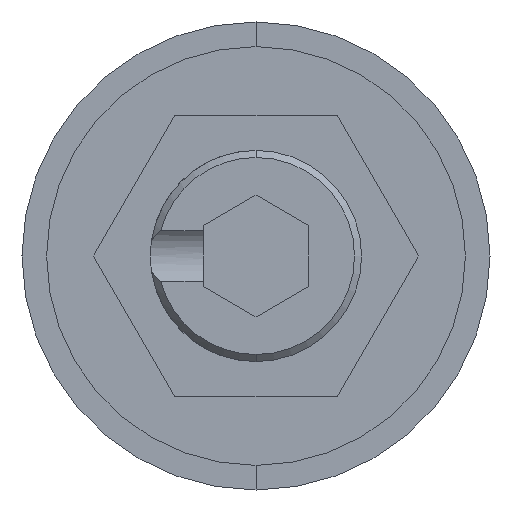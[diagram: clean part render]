
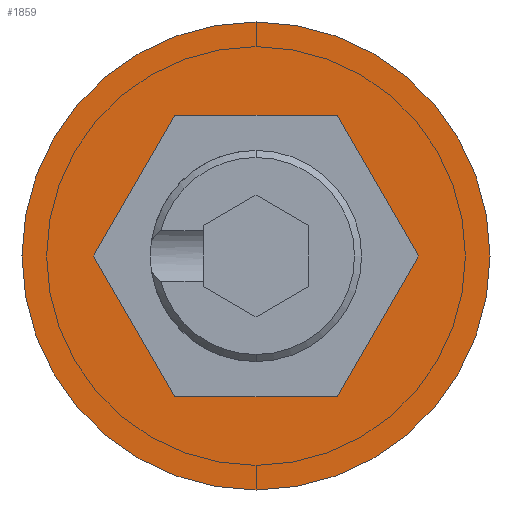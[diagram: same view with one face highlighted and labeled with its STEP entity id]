
A CAD part, front view. The second image highlights one B-rep face of the part: STEP entity #1859.
In plain terms, the highlighted planar face has unit normal (0, -1, 0).
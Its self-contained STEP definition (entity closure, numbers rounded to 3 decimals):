
#4 = EDGE_CURVE ( 'NONE', #1845, #800, #1856, .T. ) ;
#27 = CARTESIAN_POINT ( 'NONE',  ( 0., 0., 6.65 ) ) ;
#78 = DIRECTION ( 'NONE',  ( 0.5, 0., 0.866 ) ) ;
#120 = CARTESIAN_POINT ( 'NONE',  ( 2.309, 0., 4. ) ) ;
#132 = CARTESIAN_POINT ( 'NONE',  ( 4.619, 0., 0. ) ) ;
#152 = LINE ( 'NONE', #1198, #608 ) ;
#163 = CARTESIAN_POINT ( 'NONE',  ( -2.309, 0., 4. ) ) ;
#169 = CARTESIAN_POINT ( 'NONE',  ( -2.309, 0., -4. ) ) ;
#188 = CARTESIAN_POINT ( 'NONE',  ( 2.309, 0., -4. ) ) ;
#229 = CARTESIAN_POINT ( 'NONE',  ( -4.619, 0., 0. ) ) ;
#241 = AXIS2_PLACEMENT_3D ( 'NONE', #1897, #1836, #1913 ) ;
#242 = ORIENTED_EDGE ( 'NONE', *, *, #4, .T. ) ;
#255 = EDGE_CURVE ( 'NONE', #2013, #1318, #736, .T. ) ;
#280 = CIRCLE ( 'NONE', #942, 6.65 ) ;
#295 = VECTOR ( 'NONE', #78, 1000. ) ;
#298 = LINE ( 'NONE', #188, #295 ) ;
#308 = VECTOR ( 'NONE', #2045, 1000. ) ;
#447 = VECTOR ( 'NONE', #1876, 1000. ) ;
#454 = ORIENTED_EDGE ( 'NONE', *, *, #1773, .T. ) ;
#457 = VERTEX_POINT ( 'NONE', #169 ) ;
#462 = VERTEX_POINT ( 'NONE', #132 ) ;
#490 = VECTOR ( 'NONE', #814, 1000. ) ;
#596 = VERTEX_POINT ( 'NONE', #120 ) ;
#608 = VECTOR ( 'NONE', #1121, 1000. ) ;
#624 = EDGE_LOOP ( 'NONE', ( #242, #454 ) ) ;
#655 = EDGE_LOOP ( 'NONE', ( #1736, #1087, #1704, #963, #746, #816 ) ) ;
#666 = CARTESIAN_POINT ( 'NONE',  ( 4.619, 0., 0. ) ) ;
#736 = LINE ( 'NONE', #1337, #447 ) ;
#746 = ORIENTED_EDGE ( 'NONE', *, *, #2113, .F. ) ;
#778 = EDGE_CURVE ( 'NONE', #1489, #462, #298, .T. ) ;
#800 = VERTEX_POINT ( 'NONE', #27 ) ;
#814 = DIRECTION ( 'NONE',  ( -0.5, 0., 0.866 ) ) ;
#816 = ORIENTED_EDGE ( 'NONE', *, *, #778, .F. ) ;
#876 = CARTESIAN_POINT ( 'NONE',  ( 2.309, 0., -4. ) ) ;
#929 = LINE ( 'NONE', #666, #490 ) ;
#942 = AXIS2_PLACEMENT_3D ( 'NONE', #1694, #1699, #1713 ) ;
#950 = FACE_OUTER_BOUND ( 'NONE', #624, .T. ) ;
#963 = ORIENTED_EDGE ( 'NONE', *, *, #1256, .F. ) ;
#995 = DIRECTION ( 'NONE',  ( 0.5, 0., -0.866 ) ) ;
#1019 = CARTESIAN_POINT ( 'NONE',  ( 0., 0., 0. ) ) ;
#1087 = ORIENTED_EDGE ( 'NONE', *, *, #1427, .F. ) ;
#1092 = DIRECTION ( 'NONE',  ( 0., -1., 0. ) ) ;
#1121 = DIRECTION ( 'NONE',  ( -1., 0., 0. ) ) ;
#1135 = DIRECTION ( 'NONE',  ( 0., 0., -1. ) ) ;
#1198 = CARTESIAN_POINT ( 'NONE',  ( 2.309, 0., 4. ) ) ;
#1256 = EDGE_CURVE ( 'NONE', #596, #2013, #152, .T. ) ;
#1296 = LINE ( 'NONE', #2082, #308 ) ;
#1318 = VERTEX_POINT ( 'NONE', #1789 ) ;
#1337 = CARTESIAN_POINT ( 'NONE',  ( -2.309, 0., 4. ) ) ;
#1354 = VECTOR ( 'NONE', #995, 1000. ) ;
#1420 = LINE ( 'NONE', #229, #1354 ) ;
#1427 = EDGE_CURVE ( 'NONE', #1318, #457, #1420, .T. ) ;
#1489 = VERTEX_POINT ( 'NONE', #876 ) ;
#1582 = AXIS2_PLACEMENT_3D ( 'NONE', #1019, #1092, #1135 ) ;
#1694 = CARTESIAN_POINT ( 'NONE',  ( 0., 0., 0. ) ) ;
#1699 = DIRECTION ( 'NONE',  ( 0., -1., 0. ) ) ;
#1704 = ORIENTED_EDGE ( 'NONE', *, *, #255, .F. ) ;
#1713 = DIRECTION ( 'NONE',  ( 0., 0., -1. ) ) ;
#1736 = ORIENTED_EDGE ( 'NONE', *, *, #1945, .F. ) ;
#1773 = EDGE_CURVE ( 'NONE', #800, #1845, #280, .T. ) ;
#1784 = FACE_BOUND ( 'NONE', #655, .T. ) ;
#1789 = CARTESIAN_POINT ( 'NONE',  ( -4.619, 0., 0. ) ) ;
#1794 = CARTESIAN_POINT ( 'NONE',  ( 0., 0., -6.65 ) ) ;
#1836 = DIRECTION ( 'NONE',  ( 0., -1., 0. ) ) ;
#1845 = VERTEX_POINT ( 'NONE', #1794 ) ;
#1856 = CIRCLE ( 'NONE', #1582, 6.65 ) ;
#1859 = ADVANCED_FACE ( 'NONE', ( #1784, #950 ), #1907, .T. ) ;
#1876 = DIRECTION ( 'NONE',  ( -0.5, 0., -0.866 ) ) ;
#1897 = CARTESIAN_POINT ( 'NONE',  ( 0., 0., 0. ) ) ;
#1907 = PLANE ( 'NONE',  #241 ) ;
#1913 = DIRECTION ( 'NONE',  ( 0., 0., -1. ) ) ;
#1945 = EDGE_CURVE ( 'NONE', #457, #1489, #1296, .T. ) ;
#2013 = VERTEX_POINT ( 'NONE', #163 ) ;
#2045 = DIRECTION ( 'NONE',  ( 1., 0., 0. ) ) ;
#2082 = CARTESIAN_POINT ( 'NONE',  ( -2.309, 0., -4. ) ) ;
#2113 = EDGE_CURVE ( 'NONE', #462, #596, #929, .T. ) ;
